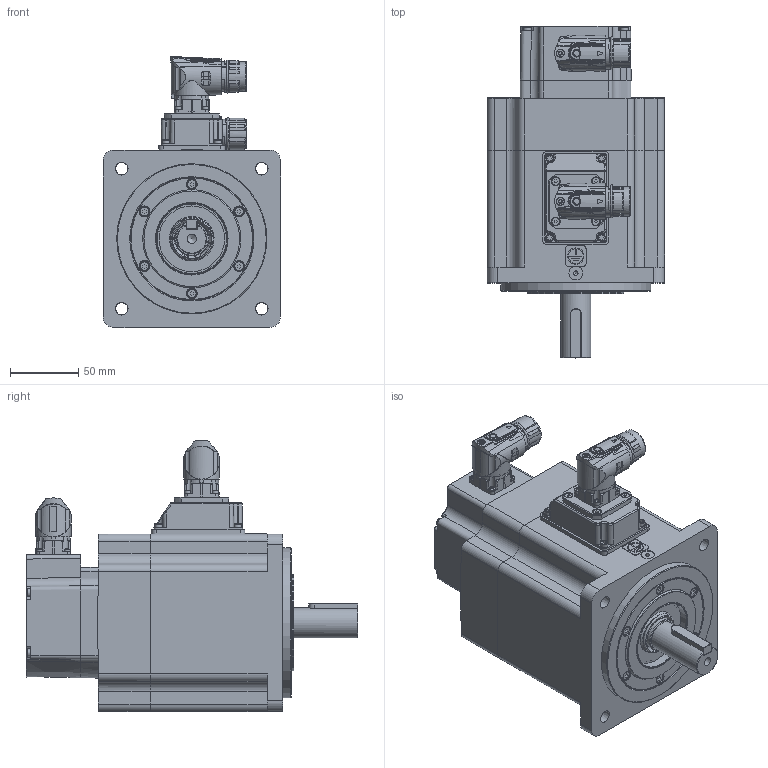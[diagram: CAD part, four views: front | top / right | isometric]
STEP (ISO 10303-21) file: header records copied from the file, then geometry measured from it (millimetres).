
FILE_DESCRIPTION( ( 'Unknown' ), '1' );
FILE_NAME( 'U:/05_Progetto TCE/010-TCE motor drawings/TCE130/Vuoti/TCE130 5A XX 3 A1 1 C2.stp', 'Unknown', ( 'Unknown' ), ( 'Unknown' ), 'PSStep 17.0.49', 'Unknown', ' ' );
FILE_SCHEMA( ( 'AUTOMOTIVE_DESIGN { 1 0 10303 214 1 1 1 1 }' ) );
Length unit declared in the file: millimetre
Products named in the file (13): 003103001510
Bounding box: 130.3 x 243 x 198.5 mm (x, y, z)
Volume: 1087873.7 mm3; surface area: 338212 mm2
Topology: 13 solids, 84 shells, 3020 faces, 7554 edges, 4873 vertices
Faces by surface type: plane 1467, cylinder 751, cone 292, bspline 230, torus 161, sphere 81, extrusion 38
Full cylindrical faces by diameter (mm): 0.5 x1, 1 x21, 1.2 x17, 1.4 x4, 2 x4, 2.013 x4, 2.2 x2, 2.459 x23, 2.5 x10, 2.6 x4, 2.8 x4, 3 x29, 3.2 x1, 3.242 x30, 3.5 x8, 4 x15, 4.134 x8, 4.4 x4, 4.5 x12, 4.7 x4, 5 x8, 5.5 x20, 5.8 x1, 5.9 x2, 6.647 x2, 6.8 x1, 7 x10, 8 x12, 8.5 x8, 10 x1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
Entity records: 124896 total; most frequent: CARTESIAN_POINT 37858, DIRECTION 13362, ORIENTED_EDGE 12960, EDGE_CURVE 6480, AXIS2_PLACEMENT_3D 5009, VERTEX_POINT 4595, EDGE_LOOP 4026, FACE_OUTER_BOUND 3499
